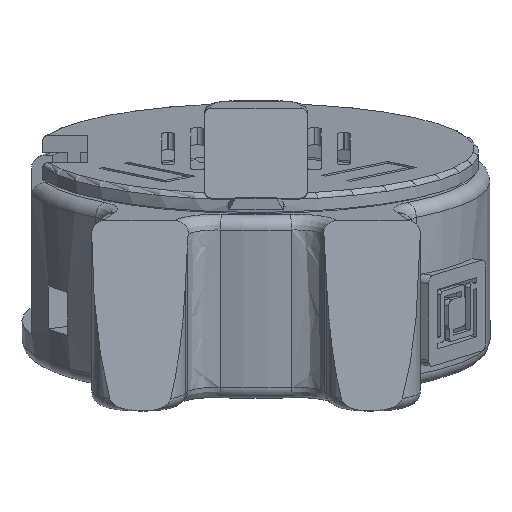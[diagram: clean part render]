
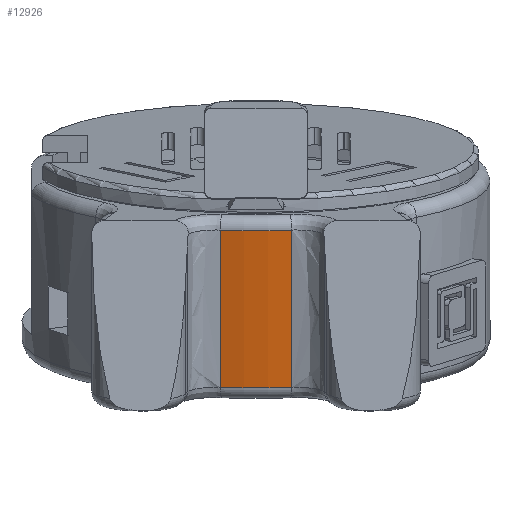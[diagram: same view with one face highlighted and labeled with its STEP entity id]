
A CAD part, front view. The second image highlights one B-rep face of the part: STEP entity #12926.
In plain terms, the highlighted cylindrical face has radius 32 mm (diameter 64 mm), a partial arc.
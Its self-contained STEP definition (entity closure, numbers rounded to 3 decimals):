
#2400 = TOROIDAL_SURFACE('',#2401,30.2,1.8);
#2401 = AXIS2_PLACEMENT_3D('',#2402,#2403,#2404);
#2402 = CARTESIAN_POINT('',(0.,33.552,23.28));
#2403 = DIRECTION('',(0.,-0.208,0.978));
#2404 = DIRECTION('',(0.153,-0.967,-0.205));
#3865 = TOROIDAL_SURFACE('',#3866,30.2,1.8);
#3866 = AXIS2_PLACEMENT_3D('',#3867,#3868,#3869);
#3867 = CARTESIAN_POINT('',(0.,38.126,1.761));
#3868 = DIRECTION('',(-0.,0.208,-0.978));
#3869 = DIRECTION('',(-0.153,-0.967,-0.205));
#7006 = ( BOUNDED_SURFACE() B_SPLINE_SURFACE(2,2,(
    (#7007,#7008,#7009,#7010,#7011)
    ,(#7012,#7013,#7014,#7015,#7016)
    ,(#7017,#7018,#7019,#7020,#7021
)),.UNSPECIFIED.,.F.,.F.,.F.) B_SPLINE_SURFACE_WITH_KNOTS((3,3),(3,1,1,3
    ),(0.,25.6),(-1.567,0.,25.6,27.167),
.UNSPECIFIED.) GEOMETRIC_REPRESENTATION_ITEM() RATIONAL_B_SPLINE_SURFACE
((
    (1.,1.,1.,1.,1.)
    ,(0.739,0.739,0.739,0.739
      ,0.739)
,(1.,1.,1.,1.,1.))) REPRESENTATION_ITEM('') SURFACE() );
#7007 = CARTESIAN_POINT('',(-4.885,1.918,
    19.998));
#7008 = CARTESIAN_POINT('',(-4.885,2.081,
    19.232));
#7009 = CARTESIAN_POINT('',(-4.885,4.905,
    5.945));
#7010 = CARTESIAN_POINT('',(-4.885,7.729,
    -7.341));
#7011 = CARTESIAN_POINT('',(-4.885,7.892,
    -8.108));
#7012 = CARTESIAN_POINT('',(-8.494,2.463,
    20.114));
#7013 = CARTESIAN_POINT('',(-8.494,2.626,
    19.348));
#7014 = CARTESIAN_POINT('',(-8.494,5.45,6.061
    ));
#7015 = CARTESIAN_POINT('',(-8.494,8.274,
    -7.226));
#7016 = CARTESIAN_POINT('',(-8.494,8.437,
    -7.992));
#7017 = CARTESIAN_POINT('',(-9.377,-1.002,
    19.377));
#7018 = CARTESIAN_POINT('',(-9.377,-0.839,
    18.611));
#7019 = CARTESIAN_POINT('',(-9.377,1.985,
    5.324));
#7020 = CARTESIAN_POINT('',(-9.377,4.809,
    -7.962));
#7021 = CARTESIAN_POINT('',(-9.377,4.972,
    -8.728));
#7341 = VERTEX_POINT('',#7342);
#7342 = CARTESIAN_POINT('',(-4.885,2.618,
    16.705));
#7479 = VERTEX_POINT('',#7480);
#7480 = CARTESIAN_POINT('',(4.885,2.618,
    16.705));
#7508 = EDGE_CURVE('',#7479,#7341,#7509,.T.);
#7509 = SURFACE_CURVE('',#7510,(#7515,#7522),.PCURVE_S1.);
#7510 = CIRCLE('',#7511,32.);
#7511 = AXIS2_PLACEMENT_3D('',#7512,#7513,#7514);
#7512 = CARTESIAN_POINT('',(0.,33.552,23.28));
#7513 = DIRECTION('',(0.,0.208,-0.978
    ));
#7514 = DIRECTION('',(0.153,-0.967,-0.205));
#7515 = PCURVE('',#2400,#7516);
#7516 = DEFINITIONAL_REPRESENTATION('',(#7517),#7521);
#7517 = LINE('',#7518,#7519);
#7518 = CARTESIAN_POINT('',(-0.,0.));
#7519 = VECTOR('',#7520,1.);
#7520 = DIRECTION('',(-1.,0.));
#7521 = ( GEOMETRIC_REPRESENTATION_CONTEXT(2) 
PARAMETRIC_REPRESENTATION_CONTEXT() REPRESENTATION_CONTEXT('2D SPACE',''
  ) );
#7522 = PCURVE('',#7523,#7528);
#7523 = CYLINDRICAL_SURFACE('',#7524,32.);
#7524 = AXIS2_PLACEMENT_3D('',#7525,#7526,#7527);
#7525 = CARTESIAN_POINT('',(0.,38.5,0.));
#7526 = DIRECTION('',(-0.,0.208,-0.978));
#7527 = DIRECTION('',(1.,0.,0.));
#7528 = DEFINITIONAL_REPRESENTATION('',(#7529),#7533);
#7529 = LINE('',#7530,#7531);
#7530 = CARTESIAN_POINT('',(-4.866,-23.8));
#7531 = VECTOR('',#7532,1.);
#7532 = DIRECTION('',(1.,-0.));
#7533 = ( GEOMETRIC_REPRESENTATION_CONTEXT(2) 
PARAMETRIC_REPRESENTATION_CONTEXT() REPRESENTATION_CONTEXT('2D SPACE',''
  ) );
#7566 = ( BOUNDED_SURFACE() B_SPLINE_SURFACE(2,2,(
    (#7567,#7568,#7569,#7570,#7571)
    ,(#7572,#7573,#7574,#7575,#7576)
    ,(#7577,#7578,#7579,#7580,#7581
)),.UNSPECIFIED.,.F.,.F.,.F.) B_SPLINE_SURFACE_WITH_KNOTS((3,3),(3,1,1,3
    ),(0.,25.6),(-1.567,0.,25.6,27.167),
.UNSPECIFIED.) GEOMETRIC_REPRESENTATION_ITEM() RATIONAL_B_SPLINE_SURFACE
((
    (1.,1.,1.,1.,1.)
    ,(0.739,0.739,0.739,0.739
      ,0.739)
,(1.,1.,1.,1.,1.))) REPRESENTATION_ITEM('') SURFACE() );
#7567 = CARTESIAN_POINT('',(4.885,1.918,
    19.998));
#7568 = CARTESIAN_POINT('',(4.885,2.081,
    19.232));
#7569 = CARTESIAN_POINT('',(4.885,4.905,5.945
    ));
#7570 = CARTESIAN_POINT('',(4.885,7.729,
    -7.341));
#7571 = CARTESIAN_POINT('',(4.885,7.892,
    -8.108));
#7572 = CARTESIAN_POINT('',(8.494,2.463,
    20.114));
#7573 = CARTESIAN_POINT('',(8.494,2.626,
    19.348));
#7574 = CARTESIAN_POINT('',(8.494,5.45,6.061)
  );
#7575 = CARTESIAN_POINT('',(8.494,8.274,
    -7.226));
#7576 = CARTESIAN_POINT('',(8.494,8.437,
    -7.992));
#7577 = CARTESIAN_POINT('',(9.377,-1.002,
    19.377));
#7578 = CARTESIAN_POINT('',(9.377,-0.839,
    18.611));
#7579 = CARTESIAN_POINT('',(9.377,1.985,5.324
    ));
#7580 = CARTESIAN_POINT('',(9.377,4.809,
    -7.962));
#7581 = CARTESIAN_POINT('',(9.377,4.972,
    -8.728));
#10372 = VERTEX_POINT('',#10373);
#10373 = CARTESIAN_POINT('',(-4.885,7.192,
    -4.815));
#10502 = EDGE_CURVE('',#10372,#10503,#10505,.T.);
#10503 = VERTEX_POINT('',#10504);
#10504 = CARTESIAN_POINT('',(4.885,7.192,
    -4.815));
#10505 = SURFACE_CURVE('',#10506,(#10511,#10518),.PCURVE_S1.);
#10506 = CIRCLE('',#10507,32.);
#10507 = AXIS2_PLACEMENT_3D('',#10508,#10509,#10510);
#10508 = CARTESIAN_POINT('',(0.,38.126,1.761));
#10509 = DIRECTION('',(0.,-0.208,
    0.978));
#10510 = DIRECTION('',(-0.153,-0.967,-0.205)
  );
#10511 = PCURVE('',#3865,#10512);
#10512 = DEFINITIONAL_REPRESENTATION('',(#10513),#10517);
#10513 = LINE('',#10514,#10515);
#10514 = CARTESIAN_POINT('',(-0.,0.));
#10515 = VECTOR('',#10516,1.);
#10516 = DIRECTION('',(-1.,0.));
#10517 = ( GEOMETRIC_REPRESENTATION_CONTEXT(2) 
PARAMETRIC_REPRESENTATION_CONTEXT() REPRESENTATION_CONTEXT('2D SPACE',''
  ) );
#10518 = PCURVE('',#7523,#10519);
#10519 = DEFINITIONAL_REPRESENTATION('',(#10520),#10524);
#10520 = LINE('',#10521,#10522);
#10521 = CARTESIAN_POINT('',(-4.559,-1.8));
#10522 = VECTOR('',#10523,1.);
#10523 = DIRECTION('',(-1.,0.));
#10524 = ( GEOMETRIC_REPRESENTATION_CONTEXT(2) 
PARAMETRIC_REPRESENTATION_CONTEXT() REPRESENTATION_CONTEXT('2D SPACE',''
  ) );
#12901 = EDGE_CURVE('',#7341,#10372,#12902,.T.);
#12902 = SURFACE_CURVE('',#12903,(#12909,#12916),.PCURVE_S1.);
#12903 = B_SPLINE_CURVE_WITH_KNOTS('',2,(#12904,#12905,#12906,#12907,
    #12908),.UNSPECIFIED.,.F.,.F.,(3,1,1,3),(-1.567,
    0.,25.6,27.167),.UNSPECIFIED.);
#12904 = CARTESIAN_POINT('',(-4.885,1.918,
    19.998));
#12905 = CARTESIAN_POINT('',(-4.885,2.081,
    19.232));
#12906 = CARTESIAN_POINT('',(-4.885,4.905,
    5.945));
#12907 = CARTESIAN_POINT('',(-4.885,7.729,
    -7.341));
#12908 = CARTESIAN_POINT('',(-4.885,7.892,
    -8.108));
#12909 = PCURVE('',#7006,#12910);
#12910 = DEFINITIONAL_REPRESENTATION('',(#12911),#12915);
#12911 = LINE('',#12912,#12913);
#12912 = CARTESIAN_POINT('',(0.,0.));
#12913 = VECTOR('',#12914,1.);
#12914 = DIRECTION('',(0.,1.));
#12915 = ( GEOMETRIC_REPRESENTATION_CONTEXT(2) 
PARAMETRIC_REPRESENTATION_CONTEXT() REPRESENTATION_CONTEXT('2D SPACE',''
  ) );
#12916 = PCURVE('',#7523,#12917);
#12917 = DEFINITIONAL_REPRESENTATION('',(#12918),#12921);
#12918 = B_SPLINE_CURVE_WITH_KNOTS('',1,(#12919,#12920),.UNSPECIFIED.,
  .F.,.F.,(2,2),(0.,25.6),.PIECEWISE_BEZIER_KNOTS.);
#12919 = CARTESIAN_POINT('',(-4.559,-25.6));
#12920 = CARTESIAN_POINT('',(-4.559,0.));
#12921 = ( GEOMETRIC_REPRESENTATION_CONTEXT(2) 
PARAMETRIC_REPRESENTATION_CONTEXT() REPRESENTATION_CONTEXT('2D SPACE',''
  ) );
#12926 = ADVANCED_FACE('',(#12927),#7523,.T.);
#12927 = FACE_BOUND('',#12928,.F.);
#12928 = EDGE_LOOP('',(#12929,#12930,#12931,#12953));
#12929 = ORIENTED_EDGE('',*,*,#12901,.F.);
#12930 = ORIENTED_EDGE('',*,*,#7508,.F.);
#12931 = ORIENTED_EDGE('',*,*,#12932,.T.);
#12932 = EDGE_CURVE('',#7479,#10503,#12933,.T.);
#12933 = SURFACE_CURVE('',#12934,(#12940,#12946),.PCURVE_S1.);
#12934 = B_SPLINE_CURVE_WITH_KNOTS('',2,(#12935,#12936,#12937,#12938,
    #12939),.UNSPECIFIED.,.F.,.F.,(3,1,1,3),(-1.567,
    0.,25.6,27.167),.UNSPECIFIED.);
#12935 = CARTESIAN_POINT('',(4.885,1.918,
    19.998));
#12936 = CARTESIAN_POINT('',(4.885,2.081,
    19.232));
#12937 = CARTESIAN_POINT('',(4.885,4.905,
    5.945));
#12938 = CARTESIAN_POINT('',(4.885,7.729,
    -7.341));
#12939 = CARTESIAN_POINT('',(4.885,7.892,
    -8.108));
#12940 = PCURVE('',#7523,#12941);
#12941 = DEFINITIONAL_REPRESENTATION('',(#12942),#12945);
#12942 = B_SPLINE_CURVE_WITH_KNOTS('',1,(#12943,#12944),.UNSPECIFIED.,
  .F.,.F.,(2,2),(0.,25.6),.PIECEWISE_BEZIER_KNOTS.);
#12943 = CARTESIAN_POINT('',(-4.866,-25.6));
#12944 = CARTESIAN_POINT('',(-4.866,0.));
#12945 = ( GEOMETRIC_REPRESENTATION_CONTEXT(2) 
PARAMETRIC_REPRESENTATION_CONTEXT() REPRESENTATION_CONTEXT('2D SPACE',''
  ) );
#12946 = PCURVE('',#7566,#12947);
#12947 = DEFINITIONAL_REPRESENTATION('',(#12948),#12952);
#12948 = LINE('',#12949,#12950);
#12949 = CARTESIAN_POINT('',(0.,0.));
#12950 = VECTOR('',#12951,1.);
#12951 = DIRECTION('',(0.,1.));
#12952 = ( GEOMETRIC_REPRESENTATION_CONTEXT(2) 
PARAMETRIC_REPRESENTATION_CONTEXT() REPRESENTATION_CONTEXT('2D SPACE',''
  ) );
#12953 = ORIENTED_EDGE('',*,*,#10502,.F.);
